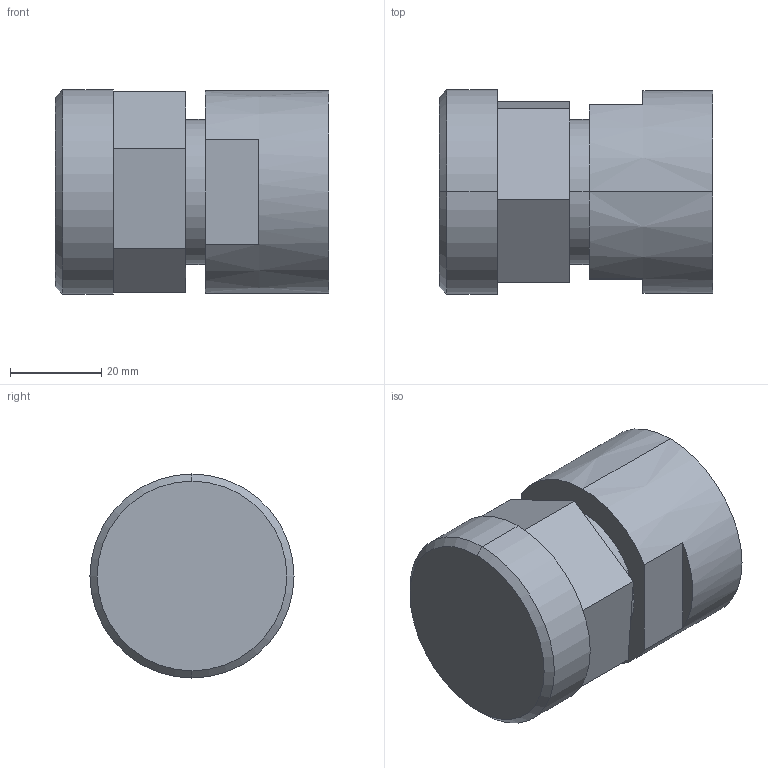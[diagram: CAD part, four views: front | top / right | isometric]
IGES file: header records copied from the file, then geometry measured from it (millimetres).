
Start section: SolidWorks IGES file using analytic representation for surfaces
Global section: file name: S:\Product Visuals\REVISED-60L-TOP-MOUNT-FITTINGS\IGS\fnpt\16-fnpt-with-top-mount-adapter.IGS; native system: SolidWorks 2012; preprocessor: SolidWorks 2012; author: rachel.dressel; date: 121127.110606; units: inch
Bounding box: 59.82 x 44.7 x 44.7 mm (x, y, z)
Volume: 71218.3 mm3; surface area: 14311.5 mm2
Topology: 1 solids, 1 shells, 26 faces, 58 edges, 38 vertices
Faces by surface type: plane 16, revolution 10
